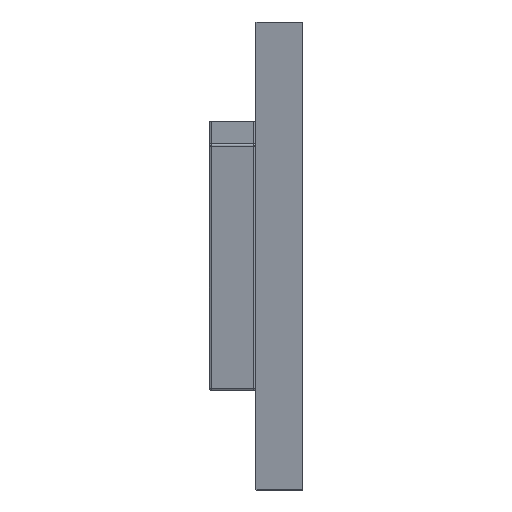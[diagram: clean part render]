
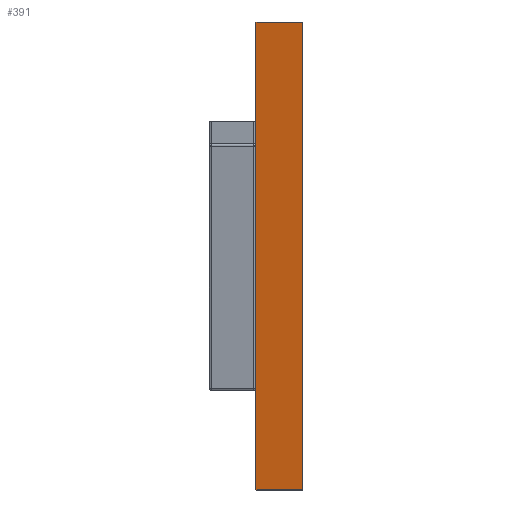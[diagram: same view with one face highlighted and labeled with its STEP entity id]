
A CAD part, left-side view. The second image highlights one B-rep face of the part: STEP entity #391.
In plain terms, the highlighted planar face has unit normal (-0.983, 0, -0.184).
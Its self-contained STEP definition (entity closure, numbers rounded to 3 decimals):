
#391 = ADVANCED_FACE ( 'NONE', ( #3996 ), #1364, .F. ) ;
#411 = VERTEX_POINT ( 'NONE', #3095 ) ;
#441 = ORIENTED_EDGE ( 'NONE', *, *, #2783, .F. ) ;
#529 = VERTEX_POINT ( 'NONE', #3712 ) ;
#608 = DIRECTION ( 'NONE',  ( -0.184, 0., 0.983 ) ) ;
#654 = VECTOR ( 'NONE', #1465, 1000. ) ;
#785 = ORIENTED_EDGE ( 'NONE', *, *, #4493, .T. ) ;
#795 = LINE ( 'NONE', #5510, #2055 ) ;
#888 = LINE ( 'NONE', #5573, #1437 ) ;
#1364 = PLANE ( 'NONE',  #3401 ) ;
#1437 = VECTOR ( 'NONE', #4374, 1000. ) ;
#1465 = DIRECTION ( 'NONE',  ( 0., -1., 0. ) ) ;
#1564 = CARTESIAN_POINT ( 'NONE',  ( -136.791, 4.236, 38.072 ) ) ;
#1730 = VERTEX_POINT ( 'NONE', #2228 ) ;
#1981 = EDGE_CURVE ( 'NONE', #529, #2222, #888, .T. ) ;
#2055 = VECTOR ( 'NONE', #4280, 1000. ) ;
#2222 = VERTEX_POINT ( 'NONE', #5360 ) ;
#2228 = CARTESIAN_POINT ( 'NONE',  ( -129.313, 4.236, -1.928 ) ) ;
#2506 = VECTOR ( 'NONE', #608, 1000. ) ;
#2783 = EDGE_CURVE ( 'NONE', #1730, #411, #3746, .T. ) ;
#2817 = EDGE_LOOP ( 'NONE', ( #4122, #3433, #441, #785 ) ) ;
#2830 = LINE ( 'NONE', #5389, #654 ) ;
#3095 = CARTESIAN_POINT ( 'NONE',  ( -136.791, 4.236, 38.072 ) ) ;
#3401 = AXIS2_PLACEMENT_3D ( 'NONE', #4478, #3575, #4828 ) ;
#3433 = ORIENTED_EDGE ( 'NONE', *, *, #3549, .F. ) ;
#3549 = EDGE_CURVE ( 'NONE', #411, #2222, #2830, .T. ) ;
#3575 = DIRECTION ( 'NONE',  ( 0.983, 0., 0.184 ) ) ;
#3712 = CARTESIAN_POINT ( 'NONE',  ( -129.313, 0.236, -1.928 ) ) ;
#3746 = LINE ( 'NONE', #1564, #2506 ) ;
#3996 = FACE_OUTER_BOUND ( 'NONE', #2817, .T. ) ;
#4122 = ORIENTED_EDGE ( 'NONE', *, *, #1981, .T. ) ;
#4280 = DIRECTION ( 'NONE',  ( 0., -1., 0. ) ) ;
#4374 = DIRECTION ( 'NONE',  ( -0.184, 0., 0.983 ) ) ;
#4478 = CARTESIAN_POINT ( 'NONE',  ( -136.791, 4.236, 38.072 ) ) ;
#4493 = EDGE_CURVE ( 'NONE', #1730, #529, #795, .T. ) ;
#4828 = DIRECTION ( 'NONE',  ( 0.184, 0., -0.983 ) ) ;
#5360 = CARTESIAN_POINT ( 'NONE',  ( -136.791, 0.236, 38.072 ) ) ;
#5389 = CARTESIAN_POINT ( 'NONE',  ( -136.791, 4.236, 38.072 ) ) ;
#5510 = CARTESIAN_POINT ( 'NONE',  ( -129.313, 4.236, -1.928 ) ) ;
#5573 = CARTESIAN_POINT ( 'NONE',  ( -136.791, 0.236, 38.072 ) ) ;
